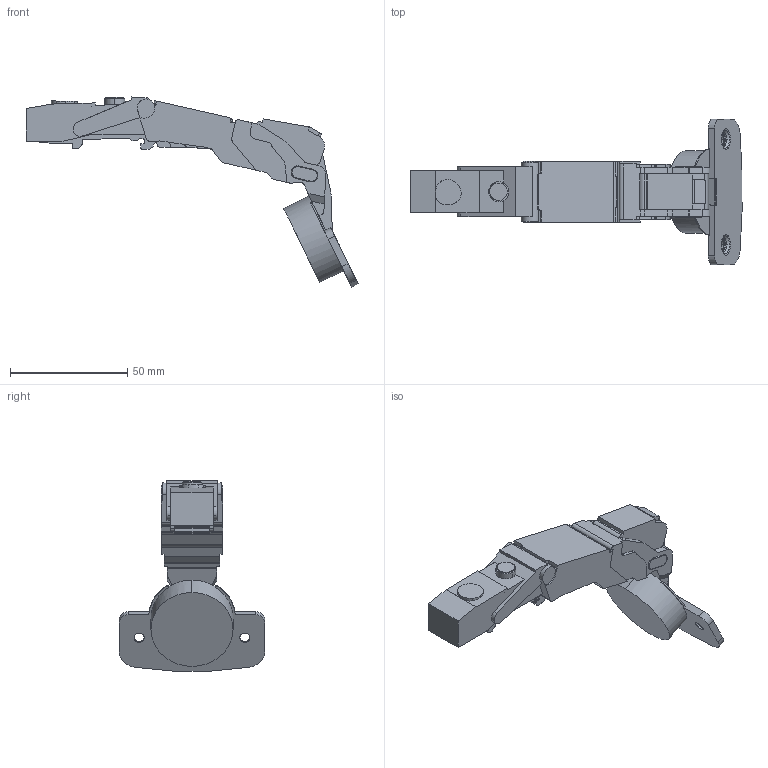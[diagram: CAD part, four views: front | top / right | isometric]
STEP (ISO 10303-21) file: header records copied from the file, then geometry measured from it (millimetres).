
FILE_DESCRIPTION (( 'STEP AP203' ), '1' );
FILE_NAME ('C80A605F-DTC3D open.STEP', '2021-04-12T00:12:33', ( '' ), ( '' ), 'SwSTEP 2.0', 'SolidWorks 2018', '' );
FILE_SCHEMA (( 'CONFIG_CONTROL_DESIGN' ));
Length unit declared in the file: millimetre
Products named in the file (1): C80A605F-DTC3D open
Bounding box: 141.53 x 62.2 x 81.04 mm (x, y, z)
Volume: 68626.2 mm3; surface area: 18412.7 mm2
Topology: 1 solids, 1 shells, 330 faces, 948 edges, 627 vertices
Faces by surface type: plane 168, cylinder 127, torus 20, bspline 11, cone 4
Entity records: 11080 total; most frequent: CARTESIAN_POINT 2269, ORIENTED_EDGE 1896, DIRECTION 1813, EDGE_CURVE 948, VERTEX_POINT 627, AXIS2_PLACEMENT_3D 611, VECTOR 591, LINE 591
